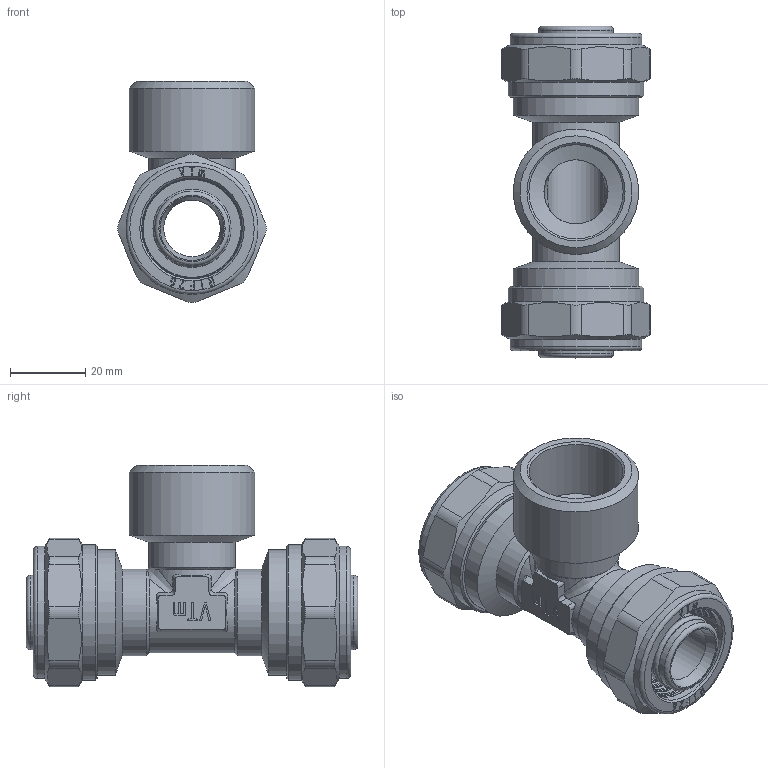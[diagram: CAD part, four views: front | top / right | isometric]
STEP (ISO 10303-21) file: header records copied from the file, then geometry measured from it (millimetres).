
FILE_DESCRIPTION(('STEP AP203'), '1');
FILE_NAME('VTm.333.N.260626', '', ('UNSPECIFIED'), ('UNSPECIFIED'), 'C3D Converter', 'C3D Toolkit', '');
FILE_SCHEMA(('CONFIG_CONTROL_DESIGN'));
Length unit declared in the file: millimetre
Products named in the file (1): ВР.302635.081.000 СБ
Bounding box: 39.39 x 88 x 58.69 mm (x, y, z)
Volume: 45025 mm3; surface area: 31574.8 mm2
Topology: 1 solids, 1 shells, 768 faces, 2109 edges, 1390 vertices
Faces by surface type: extrusion 324, plane 255, cylinder 94, torus 58, cone 33, bspline 2, sphere 2
Full cylindrical faces by diameter (mm): 15 x1, 17 x1, 17.4 x8, 19.8 x10, 20 x2, 23 x3, 25 x1, 26.2 x2, 26.7 x2, 30.292 x2, 33.249 x3, 35 x2, 36 x2
Entity records: 28866 total; most frequent: CARTESIAN_POINT 11352, ORIENTED_EDGE 4028, DIRECTION 2524, EDGE_CURVE 2014, VERTEX_POINT 1390, VECTOR 1228, B_SPLINE_CURVE_WITH_KNOTS 1167, EDGE_LOOP 914
